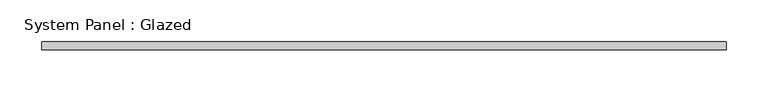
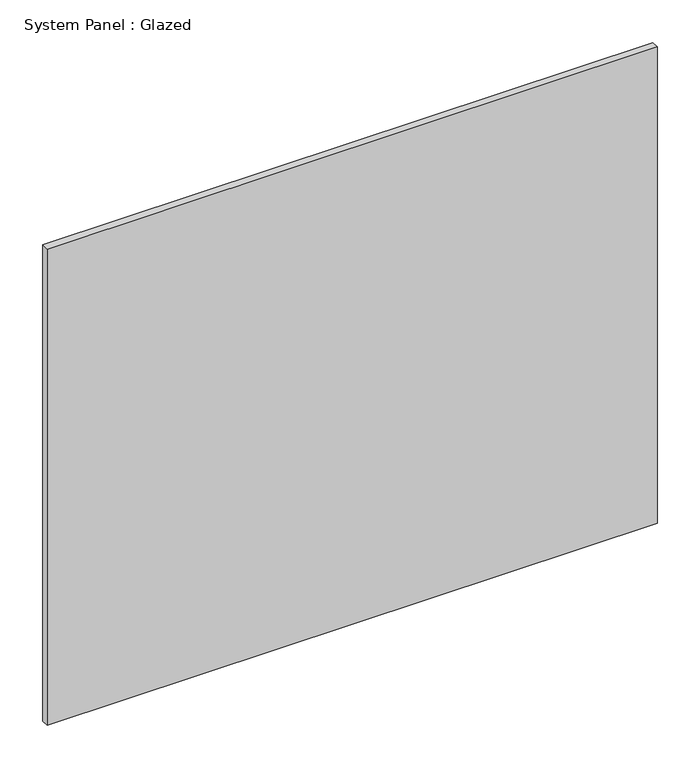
"""IFC4 building model written with IfcOpenShell, lengths in millimetres: plate geometry, System Panel : Glazed."""

from ifc_helpers import new_model, si_unit, origin, origin_with_axes, place, context, project, spatial, polyline, outline, extrude, source, transform, mapped, element, save


def system_panel_glazed_a23a02d7(model_context):
    return source(origin(), model_context, "Body", "SweptSolid", [
        extrude(outline(polyline([(412.0218271, -5.0), (-412.0218271, -5.0), (-412.0218271, 5.0), (412.0218271, 5.0), (412.0218271, -5.0)])), origin_with_axes(), (0.0, 0.0, 1.0), 680.0),
    ])


if __name__ == "__main__":
    model = new_model("IFC4")
    model_context = context("Model", 3, world=origin())
    ifc_project = project(units=[si_unit("LENGTHUNIT", "METRE", prefix="MILLI")], contexts=[model_context])
    site = spatial("IfcSite", under=ifc_project)
    building = spatial("IfcBuilding", under=site)
    placement = place(None, origin())
    system_panel_glazed_shape = system_panel_glazed_a23a02d7(model_context)
    element("IfcPlate", 1, ObjectType="System Panel : Glazed", at=placement, inside=building, context=model_context, shape_type="MappedRepresentation", body=[
        mapped(system_panel_glazed_shape, transform((0.0, 0.0, 0.0), x_axis=(1.0, 0.0, 0.0), y_axis=(0.0, 1.0, 0.0), z_axis=(0.0, 0.0, 1.0))),
    ])
    save(model, "model.ifc")
